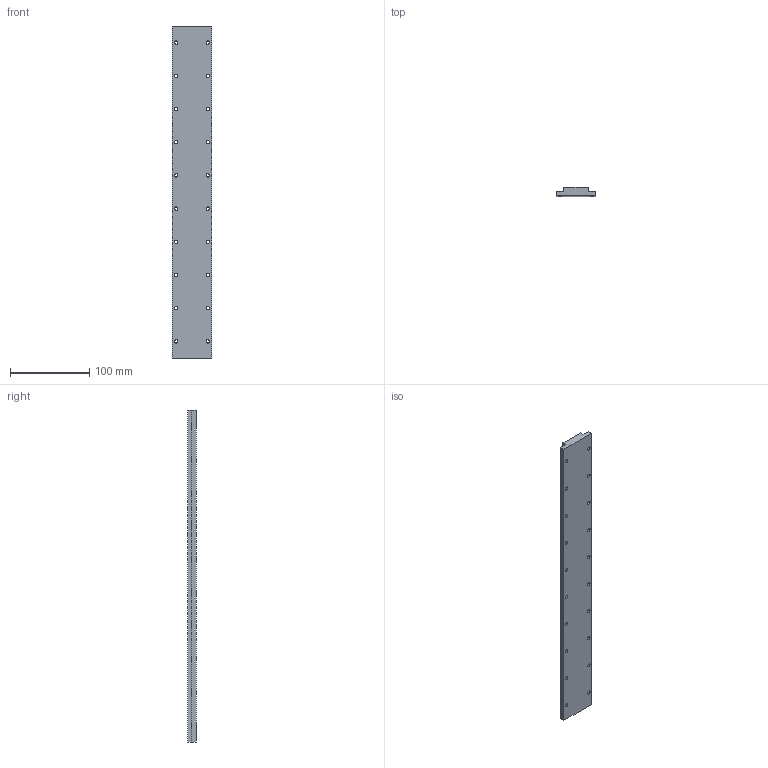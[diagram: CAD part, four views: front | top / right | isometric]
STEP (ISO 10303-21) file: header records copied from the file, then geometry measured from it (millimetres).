
FILE_DESCRIPTION (( 'STEP AP214' ), '1' );
FILE_NAME ('TLM-50-L420.STEP', '2022-05-12T08:01:35', ( 'Microsoft' ), ( 'Microsoft' ), 'SwSTEP 2.0', 'SolidWorks 2016', '' );
FILE_SCHEMA (( 'AUTOMOTIVE_DESIGN' ));
Length unit declared in the file: millimetre
Products named in the file (1): TLM-50-L420
Bounding box: 50 x 10.8 x 420 mm (x, y, z)
Volume: 185567.1 mm3; surface area: 53411.9 mm2
Topology: 1 solids, 1 shells, 110 faces, 264 edges, 176 vertices
Faces by surface type: cylinder 80, plane 30
Entity records: 3402 total; most frequent: DIRECTION 646, CARTESIAN_POINT 551, ORIENTED_EDGE 528, AXIS2_PLACEMENT_3D 271, EDGE_CURVE 264, VERTEX_POINT 176, EDGE_LOOP 170, CIRCLE 160
